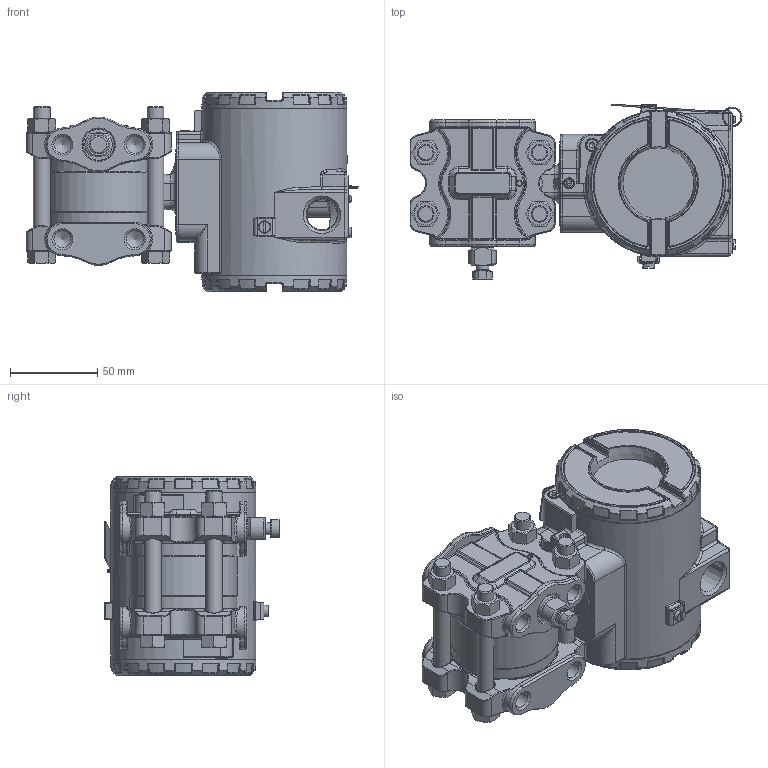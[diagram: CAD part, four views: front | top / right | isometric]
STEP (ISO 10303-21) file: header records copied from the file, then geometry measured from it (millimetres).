
FILE_DESCRIPTION(/* description */ (''),/* implementation_level */ '2;1');
FILE_NAME(/* name */ 'F:\Area\Desenvolvimento_2\Projects\Sensor\projetos\LD30X\montagens 3d - clientes\LD30XA0-3 1-4NPT purga oposta.stp',/* time_stamp */ '2023-01-26T11:08:21-03:00',/* author */ ('inventor02'),/* organization */ (''),/* preprocessor_version */ 'ST-DEVELOPER v17',/* originating_system */ 'Autodesk Inventor 2019',/* authorisation */ '');
FILE_SCHEMA (('CONFIG_CONTROL_DESIGN'));
Length unit declared in the file: millimetre
Products named in the file (30): LD30XA0-3 1-4NPT purga oposta; manometrico standard fx0-3 purga oposta; Flange manometrico standard; flange diferencial std sem purga; involucro fx0-3 apos a usinagem final; Paraf. 3-8 x 16 UNC; Porca 3-8 x 16 UNC; 075-B-0046-purgador; Sangria; carcaça vazia com tampas e plaqueta; carcaça LD inox sem letras; Subconjunto plaqueta 300; Plaqueta transmissor; Parafuso da Plaqueta; Rebite da Plaqueta; 096-A-0169-03; 101-A-0502-01; Chapa aterramento externo; ISO 1207 - M4 x 8; DIN 915 - M6 x 10; ANSI B18.3.1M - M4x0,7 x 8; Subconjunto tampa com visor aluminio; tampa pintada; VIDRO DO VISOR; oring 41x1 vidro tampa; Trava do vidro da tampa com visor; trava do vidro VH256; Subconjunto tampa sem visor-aluminio; tampa cega 300 pintada p0; 00034775-0
Assembly tree (37 placements, depth 4):
  LD30XA0-3 1-4NPT purga oposta
    manometrico standard fx0-3 purga oposta
      Flange manometrico standard
      flange diferencial std sem purga
      involucro fx0-3 apos a usinagem final
      Paraf. 3-8 x 16 UNC  x4
      Porca 3-8 x 16 UNC  x4
      075-B-0046-purgador
      Sangria
    carcaça vazia com tampas e plaqueta
      carcaça LD inox sem letras
      Subconjunto plaqueta 300
        Plaqueta transmissor
        Parafuso da Plaqueta
        Rebite da Plaqueta
        096-A-0169-03
        101-A-0502-01
      Chapa aterramento externo
      ISO 1207 - M4 x 8
      DIN 915 - M6 x 10
      ANSI B18.3.1M - M4x0,7 x 8  x2
      Subconjunto tampa com visor aluminio
        tampa pintada
        VIDRO DO VISOR
        oring 41x1 vidro tampa
        Trava do vidro da tampa com visor
        trava do vidro VH256
        00034775-0
      Subconjunto tampa sem visor-aluminio
        tampa cega 300 pintada p0
        00034775-0
Bounding box: 189.79 x 100.6 x 114 mm (x, y, z)
Volume: 568478.1 mm3; surface area: 226886 mm2
Topology: 32 solids, 32 shells, 2624 faces, 6295 edges, 3695 vertices
Faces by surface type: bspline 729, cylinder 609, plane 495, torus 448, cone 231, sphere 112
Full cylindrical faces by diameter (mm): 2 x2, 2.1 x2, 2.459 x5, 2.642 x1, 2.7 x1, 3 x4, 3.242 x4, 3.5 x4, 3.571 x1, 4 x4, 4.3 x1, 4.4 x1, 4.917 x1, 5.5 x3, 6 x2, 6.8 x1, 7 x5, 7.087 x2, 7.6 x2, 7.798 x4, 8 x1, 8.7 x2, 9.525 x4, 9.728 x8, 10.5 x8, 10.719 x2, 13.8 x1, 14 x1, 17.475 x2, 18.5 x2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
Entity records: 93436 total; most frequent: CARTESIAN_POINT 36258, ORIENTED_EDGE 12018, DIRECTION 11540, EDGE_CURVE 6009, AXIS2_PLACEMENT_3D 5083, VERTEX_POINT 3569, CIRCLE 2991, EDGE_LOOP 2636
